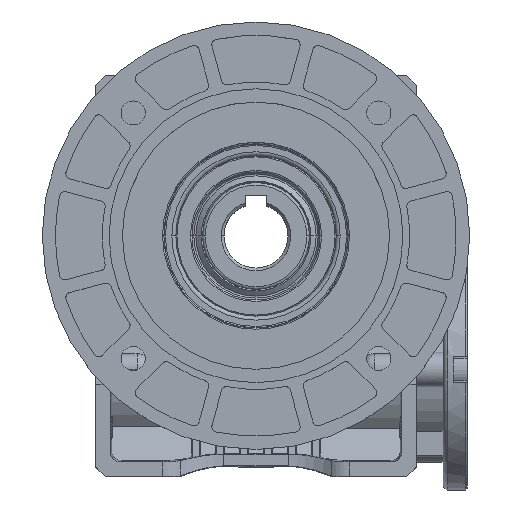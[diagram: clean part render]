
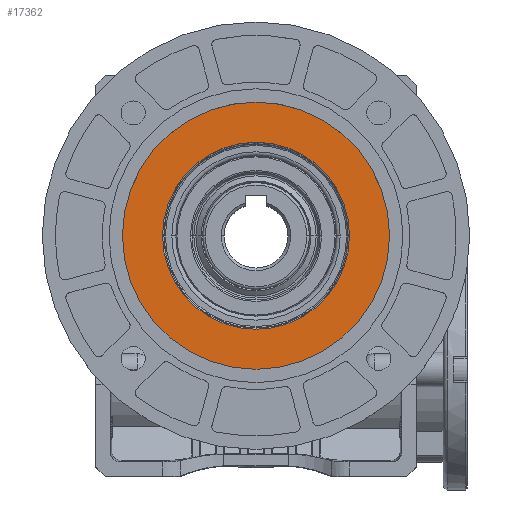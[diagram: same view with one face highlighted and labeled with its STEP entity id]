
A CAD part, top view. The second image highlights one B-rep face of the part: STEP entity #17362.
In plain terms, the highlighted planar face has unit normal (0, 0, 1).
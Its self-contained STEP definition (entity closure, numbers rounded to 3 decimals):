
#777 = EDGE_CURVE ( 'NONE', #2871, #29838, #81231, .T. ) ;
#1414 = AXIS2_PLACEMENT_3D ( 'NONE', #13703, #12030, #3441 ) ;
#2871 = VERTEX_POINT ( 'NONE', #31019 ) ;
#3441 = DIRECTION ( 'NONE',  ( 1., 0., 0. ) ) ;
#4494 = CARTESIAN_POINT ( 'NONE',  ( 0., 0., 96. ) ) ;
#6516 = ORIENTED_EDGE ( 'NONE', *, *, #46942, .T. ) ;
#6648 = CARTESIAN_POINT ( 'NONE',  ( 0., 0., 96. ) ) ;
#6723 = VERTEX_POINT ( 'NONE', #47563 ) ;
#8624 = AXIS2_PLACEMENT_3D ( 'NONE', #6648, #33083, #94938 ) ;
#12030 = DIRECTION ( 'NONE',  ( 0., 0., -1. ) ) ;
#13703 = CARTESIAN_POINT ( 'NONE',  ( 0., 0., 96. ) ) ;
#15457 = DIRECTION ( 'NONE',  ( 1., 0., 0. ) ) ;
#17362 = ADVANCED_FACE ( 'NONE', ( #73472, #57964 ), #65399, .F. ) ;
#23719 = CIRCLE ( 'NONE', #43886, 35. ) ;
#29838 = VERTEX_POINT ( 'NONE', #85506 ) ;
#30417 = DIRECTION ( 'NONE',  ( 0., 0., -1. ) ) ;
#30706 = CIRCLE ( 'NONE', #1414, 50. ) ;
#31019 = CARTESIAN_POINT ( 'NONE',  ( 50., 0., 96. ) ) ;
#33083 = DIRECTION ( 'NONE',  ( 0., 0., -1. ) ) ;
#33302 = ORIENTED_EDGE ( 'NONE', *, *, #111336, .F. ) ;
#36681 = ORIENTED_EDGE ( 'NONE', *, *, #41207, .T. ) ;
#38387 = DIRECTION ( 'NONE',  ( 0., 0., -1. ) ) ;
#39109 = EDGE_LOOP ( 'NONE', ( #36681, #6516 ) ) ;
#39116 = AXIS2_PLACEMENT_3D ( 'NONE', #41301, #30417, #15457 ) ;
#41207 = EDGE_CURVE ( 'NONE', #102373, #6723, #23719, .T. ) ;
#41301 = CARTESIAN_POINT ( 'NONE',  ( 0., 0., 96. ) ) ;
#43886 = AXIS2_PLACEMENT_3D ( 'NONE', #4494, #38387, #109979 ) ;
#46942 = EDGE_CURVE ( 'NONE', #6723, #102373, #107455, .T. ) ;
#47563 = CARTESIAN_POINT ( 'NONE',  ( -35., 0., 96. ) ) ;
#50802 = EDGE_LOOP ( 'NONE', ( #110260, #33302 ) ) ;
#57964 = FACE_BOUND ( 'NONE', #39109, .T. ) ;
#65399 = PLANE ( 'NONE',  #65450 ) ;
#65450 = AXIS2_PLACEMENT_3D ( 'NONE', #110675, #75730, #67098 ) ;
#65625 = CARTESIAN_POINT ( 'NONE',  ( 35., 0., 96. ) ) ;
#67098 = DIRECTION ( 'NONE',  ( 1., 0., 0. ) ) ;
#73472 = FACE_OUTER_BOUND ( 'NONE', #50802, .T. ) ;
#75730 = DIRECTION ( 'NONE',  ( 0., 0., -1. ) ) ;
#81231 = CIRCLE ( 'NONE', #39116, 50. ) ;
#85506 = CARTESIAN_POINT ( 'NONE',  ( -50., 0., 96. ) ) ;
#94938 = DIRECTION ( 'NONE',  ( 1., 0., 0. ) ) ;
#102373 = VERTEX_POINT ( 'NONE', #65625 ) ;
#107455 = CIRCLE ( 'NONE', #8624, 35. ) ;
#109979 = DIRECTION ( 'NONE',  ( 1., 0., 0. ) ) ;
#110260 = ORIENTED_EDGE ( 'NONE', *, *, #777, .F. ) ;
#110675 = CARTESIAN_POINT ( 'NONE',  ( 0., -50., 96. ) ) ;
#111336 = EDGE_CURVE ( 'NONE', #29838, #2871, #30706, .T. ) ;
